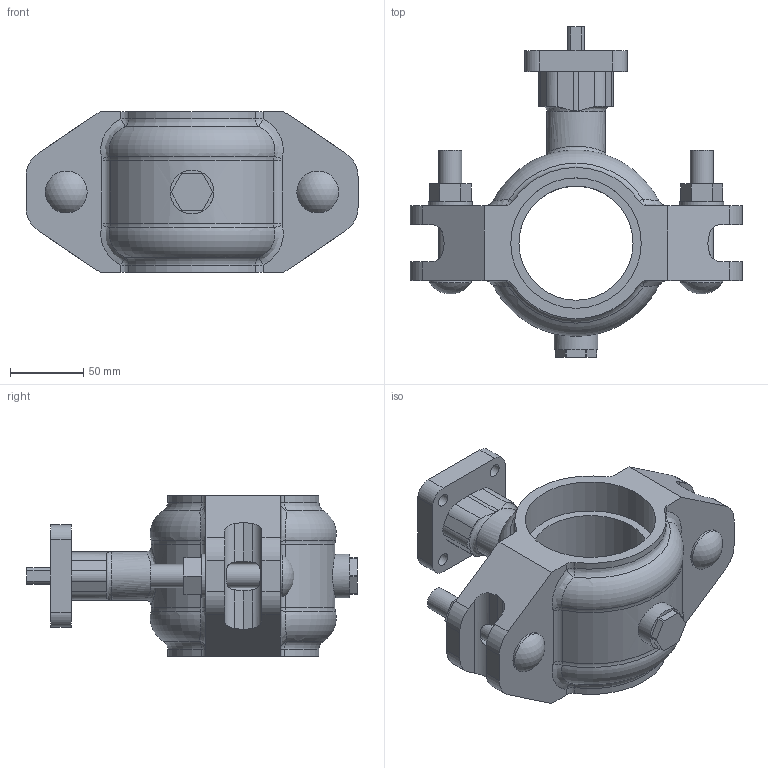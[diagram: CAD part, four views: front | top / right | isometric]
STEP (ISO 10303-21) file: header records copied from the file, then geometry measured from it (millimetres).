
FILE_DESCRIPTION(/* description */ ('VIC SS IR VALVE BUTTERFLY BARE SERIES 124 (OGS)','CAx-IF Rec.Pracs.---Representation and Presentation of Product Manufacturing Information (PMI)---4.0---2014-10-13'),/* implementation_level */ '2;1');
FILE_NAME(/* name */ 'C:\IR-124\step\Victaulic_SS-OGS_Valve Butterfly Bare_IR_Series 124 (OGS)\Victaulic_SS-OGS_Valve Butterfly Bare_IR_Series 124 (OGS)_3 (80).stp',/* time_stamp */ '2021-08-02T15:24:16+06:00',/* author */ ('Vjadhav'),/* organization */ ('Victaulic'),/* preprocessor_version */ 'ST-DEVELOPER v17.2',/* originating_system */ 'Autodesk Inventor 2019',/* authorisation */ '');
FILE_SCHEMA (('AP242_MANAGED_MODEL_BASED_3D_ENGINEERING_MIM_LF { 1 0 10303 442 1 1 4 }'));
Length unit declared in the file: inch
Products named in the file (1): 124-03.0
Bounding box: 226.31 x 225.3 x 109.47 mm (x, y, z)
Volume: 1202366.5 mm3; surface area: 144918.3 mm2
Topology: 1 solids, 1 shells, 198 faces, 520 edges, 339 vertices
Faces by surface type: plane 91, cylinder 66, bspline 19, torus 12, sphere 10
Full cylindrical faces by diameter (mm): 8.788 x4, 15.875 x4, 28.575 x2, 29.845 x1, 29.972 x2, 77.787 x1, 88.9 x2
Entity records: 7524 total; most frequent: CARTESIAN_POINT 2261, ORIENTED_EDGE 1040, DIRECTION 1037, EDGE_CURVE 520, AXIS2_PLACEMENT_3D 382, VERTEX_POINT 339, LINE 273, VECTOR 273
